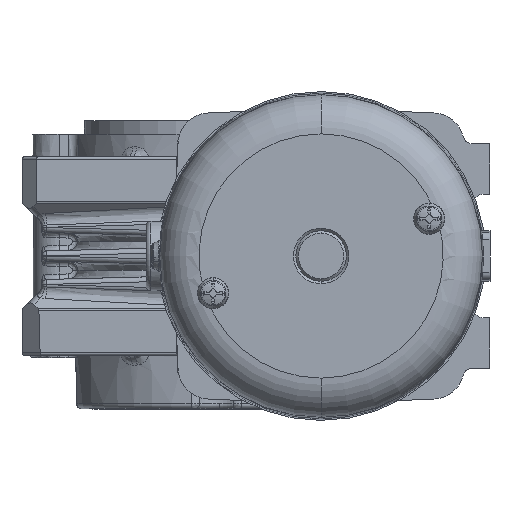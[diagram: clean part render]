
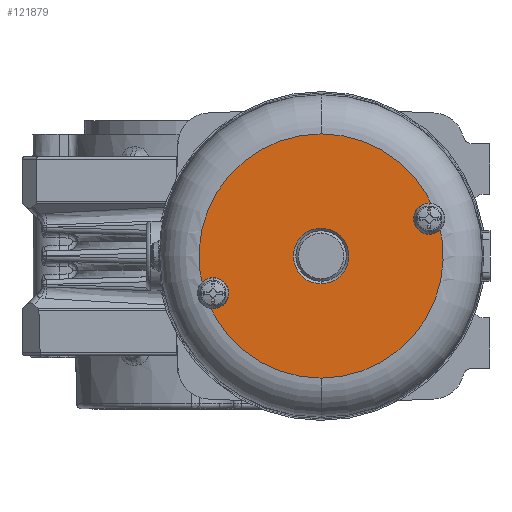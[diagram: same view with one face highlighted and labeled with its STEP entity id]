
A CAD part, left-side view. The second image highlights one B-rep face of the part: STEP entity #121879.
In plain terms, the highlighted planar face has unit normal (-1, 0, 0).
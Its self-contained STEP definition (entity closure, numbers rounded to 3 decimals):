
#653 = CARTESIAN_POINT ( 'NONE',  ( -17.444, 37.467, 134.148 ) ) ;
#2240 = CARTESIAN_POINT ( 'NONE',  ( -17.444, 60.452, 150.023 ) ) ;
#5069 = AXIS2_PLACEMENT_3D ( 'NONE', #73221, #37801, #98008 ) ;
#7012 = CARTESIAN_POINT ( 'NONE',  ( -17.444, 83.923, 118.152 ) ) ;
#8562 = VERTEX_POINT ( 'NONE', #58978 ) ;
#8726 = ORIENTED_EDGE ( 'NONE', *, *, #145739, .F. ) ;
#10379 = DIRECTION ( 'NONE',  ( 0., 0., -1. ) ) ;
#13594 = CARTESIAN_POINT ( 'NONE',  ( -17.444, 60.452, 125.445 ) ) ;
#16222 = CARTESIAN_POINT ( 'NONE',  ( -17.444, 83.437, 116.742 ) ) ;
#16268 = DIRECTION ( 'NONE',  ( 1., 0., 0. ) ) ;
#17976 = ORIENTED_EDGE ( 'NONE', *, *, #60330, .T. ) ;
#20326 = AXIS2_PLACEMENT_3D ( 'NONE', #64642, #30722, #56988 ) ;
#20422 = EDGE_CURVE ( 'NONE', #103439, #123895, #96502, .T. ) ;
#22044 = ORIENTED_EDGE ( 'NONE', *, *, #99752, .F. ) ;
#26576 = EDGE_LOOP ( 'NONE', ( #81225, #94199, #22044, #108580, #8726, #137143 ) ) ;
#26994 = CIRCLE ( 'NONE', #75095, 24.577 ) ;
#30722 = DIRECTION ( 'NONE',  ( 1., 0., 0. ) ) ;
#31160 = VERTEX_POINT ( 'NONE', #16222 ) ;
#31762 = EDGE_CURVE ( 'NONE', #104791, #94478, #26994, .T. ) ;
#32850 = AXIS2_PLACEMENT_3D ( 'NONE', #13594, #103232, #59580 ) ;
#36597 = AXIS2_PLACEMENT_3D ( 'NONE', #75217, #123227, #122468 ) ;
#37801 = DIRECTION ( 'NONE',  ( 1., 0., 0. ) ) ;
#40038 = CIRCLE ( 'NONE', #32850, 5.58 ) ;
#41180 = AXIS2_PLACEMENT_3D ( 'NONE', #141611, #83849, #129594 ) ;
#43891 = CARTESIAN_POINT ( 'NONE',  ( -17.444, 60.452, 100.868 ) ) ;
#46200 = EDGE_CURVE ( 'NONE', #31160, #97017, #81990, .T. ) ;
#48924 = EDGE_CURVE ( 'NONE', #123895, #104791, #132676, .T. ) ;
#50345 = DIRECTION ( 'NONE',  ( 1., 0., 0. ) ) ;
#52109 = FACE_BOUND ( 'NONE', #144837, .T. ) ;
#55493 = DIRECTION ( 'NONE',  ( 0., 1., 0. ) ) ;
#56988 = DIRECTION ( 'NONE',  ( 0., 0., -1. ) ) ;
#58978 = CARTESIAN_POINT ( 'NONE',  ( -17.444, 60.452, 131.025 ) ) ;
#59580 = DIRECTION ( 'NONE',  ( 0., 0., -1. ) ) ;
#60330 = EDGE_CURVE ( 'NONE', #144796, #8562, #40038, .T. ) ;
#62698 = PLANE ( 'NONE',  #41180 ) ;
#64642 = CARTESIAN_POINT ( 'NONE',  ( -17.444, 60.452, 125.445 ) ) ;
#68392 = CARTESIAN_POINT ( 'NONE',  ( -17.444, 60.452, 125.445 ) ) ;
#70876 = CIRCLE ( 'NONE', #20326, 5.58 ) ;
#73221 = CARTESIAN_POINT ( 'NONE',  ( -17.444, 60.452, 125.445 ) ) ;
#73269 = AXIS2_PLACEMENT_3D ( 'NONE', #99886, #16268, #86363 ) ;
#74015 = FACE_OUTER_BOUND ( 'NONE', #26576, .T. ) ;
#75095 = AXIS2_PLACEMENT_3D ( 'NONE', #68392, #114222, #10379 ) ;
#75217 = CARTESIAN_POINT ( 'NONE',  ( -17.444, 38.752, 132.917 ) ) ;
#81225 = ORIENTED_EDGE ( 'NONE', *, *, #48924, .F. ) ;
#81990 = CIRCLE ( 'NONE', #127480, 1.78 ) ;
#83849 = DIRECTION ( 'NONE',  ( -1., 0., 0. ) ) ;
#86363 = DIRECTION ( 'NONE',  ( 0., 0., -1. ) ) ;
#91629 = DIRECTION ( 'NONE',  ( -1., 0., 0. ) ) ;
#92399 = AXIS2_PLACEMENT_3D ( 'NONE', #94851, #50345, #96332 ) ;
#94199 = ORIENTED_EDGE ( 'NONE', *, *, #20422, .F. ) ;
#94478 = VERTEX_POINT ( 'NONE', #43891 ) ;
#94851 = CARTESIAN_POINT ( 'NONE',  ( -17.444, 60.452, 125.445 ) ) ;
#96332 = DIRECTION ( 'NONE',  ( 0., 0., -1. ) ) ;
#96502 = CIRCLE ( 'NONE', #5069, 24.577 ) ;
#97017 = VERTEX_POINT ( 'NONE', #7012 ) ;
#98008 = DIRECTION ( 'NONE',  ( 0., 0., -1. ) ) ;
#99752 = EDGE_CURVE ( 'NONE', #97017, #103439, #106953, .T. ) ;
#99886 = CARTESIAN_POINT ( 'NONE',  ( -17.444, 60.452, 125.445 ) ) ;
#101935 = CIRCLE ( 'NONE', #92399, 24.577 ) ;
#103232 = DIRECTION ( 'NONE',  ( 1., 0., 0. ) ) ;
#103439 = VERTEX_POINT ( 'NONE', #2240 ) ;
#104791 = VERTEX_POINT ( 'NONE', #123566 ) ;
#106953 = CIRCLE ( 'NONE', #73269, 24.577 ) ;
#108580 = ORIENTED_EDGE ( 'NONE', *, *, #46200, .F. ) ;
#114222 = DIRECTION ( 'NONE',  ( 1., 0., 0. ) ) ;
#115626 = CARTESIAN_POINT ( 'NONE',  ( -17.444, 82.152, 117.973 ) ) ;
#121879 = ADVANCED_FACE ( 'NONE', ( #74015, #52109 ), #62698, .T. ) ;
#122468 = DIRECTION ( 'NONE',  ( 0., 1., 0. ) ) ;
#123227 = DIRECTION ( 'NONE',  ( -1., 0., 0. ) ) ;
#123566 = CARTESIAN_POINT ( 'NONE',  ( -17.444, 36.981, 132.738 ) ) ;
#123895 = VERTEX_POINT ( 'NONE', #653 ) ;
#124827 = EDGE_CURVE ( 'NONE', #8562, #144796, #70876, .T. ) ;
#127480 = AXIS2_PLACEMENT_3D ( 'NONE', #115626, #91629, #55493 ) ;
#129594 = DIRECTION ( 'NONE',  ( 0., 0., 1. ) ) ;
#132676 = CIRCLE ( 'NONE', #36597, 1.78 ) ;
#137143 = ORIENTED_EDGE ( 'NONE', *, *, #31762, .F. ) ;
#140778 = CARTESIAN_POINT ( 'NONE',  ( -17.444, 60.452, 119.865 ) ) ;
#141611 = CARTESIAN_POINT ( 'NONE',  ( -17.444, 60.452, 100.868 ) ) ;
#144796 = VERTEX_POINT ( 'NONE', #140778 ) ;
#144837 = EDGE_LOOP ( 'NONE', ( #145573, #17976 ) ) ;
#145573 = ORIENTED_EDGE ( 'NONE', *, *, #124827, .T. ) ;
#145739 = EDGE_CURVE ( 'NONE', #94478, #31160, #101935, .T. ) ;
